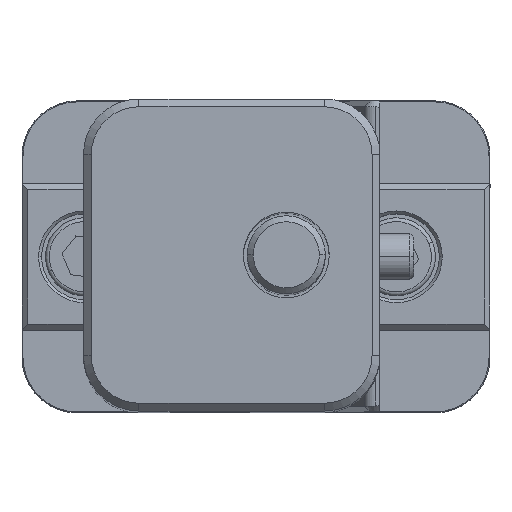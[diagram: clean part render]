
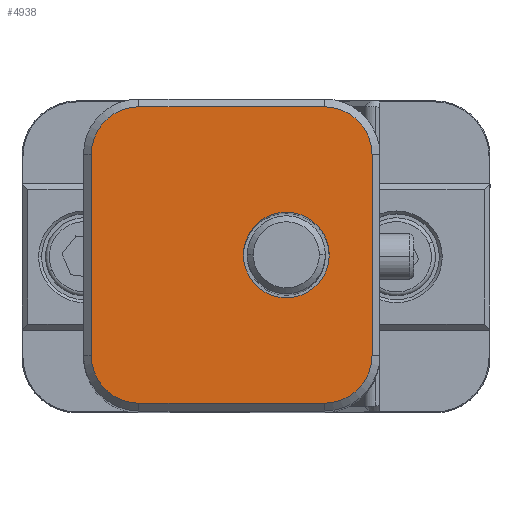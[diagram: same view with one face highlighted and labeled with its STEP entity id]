
A CAD part, top view. The second image highlights one B-rep face of the part: STEP entity #4938.
In plain terms, the highlighted planar face has unit normal (0, 0, 1).
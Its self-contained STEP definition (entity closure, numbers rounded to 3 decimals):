
#4938 = ADVANCED_FACE ( 'NONE', ( #11173, #11172 ), #11171, .T. ) ;
#4939 = EDGE_LOOP ( 'NONE', ( #4940, #4999, #5002, #5005, #5008, #5011, #4985, #4988 ) ) ;
#4940 = ORIENTED_EDGE ( 'NONE', *, *, #4941, .T. ) ;
#4941 = EDGE_CURVE ( 'NONE', #4997, #4998, #11284, .T. ) ;
#4950 = VERTEX_POINT ( 'NONE', #11243 ) ;
#4952 = EDGE_CURVE ( 'NONE', #4953, #4950, #11239, .T. ) ;
#4953 = VERTEX_POINT ( 'NONE', #11351 ) ;
#4983 = EDGE_CURVE ( 'NONE', #5010, #4984, #11363, .T. ) ;
#4984 = VERTEX_POINT ( 'NONE', #11357 ) ;
#4985 = ORIENTED_EDGE ( 'NONE', *, *, #4986, .T. ) ;
#4986 = EDGE_CURVE ( 'NONE', #4984, #4987, #11352, .T. ) ;
#4987 = VERTEX_POINT ( 'NONE', #11471 ) ;
#4988 = ORIENTED_EDGE ( 'NONE', *, *, #4989, .T. ) ;
#4989 = EDGE_CURVE ( 'NONE', #4987, #4997, #11466, .T. ) ;
#4990 = EDGE_LOOP ( 'NONE', ( #4991, #4992 ) ) ;
#4991 = ORIENTED_EDGE ( 'NONE', *, *, #4952, .T. ) ;
#4992 = ORIENTED_EDGE ( 'NONE', *, *, #4993, .T. ) ;
#4993 = EDGE_CURVE ( 'NONE', #4950, #4953, #11455, .T. ) ;
#4997 = VERTEX_POINT ( 'NONE', #11433 ) ;
#4998 = VERTEX_POINT ( 'NONE', #11432 ) ;
#4999 = ORIENTED_EDGE ( 'NONE', *, *, #5000, .T. ) ;
#5000 = EDGE_CURVE ( 'NONE', #4998, #5001, #11428, .T. ) ;
#5001 = VERTEX_POINT ( 'NONE', #11420 ) ;
#5002 = ORIENTED_EDGE ( 'NONE', *, *, #5003, .T. ) ;
#5003 = EDGE_CURVE ( 'NONE', #5001, #5004, #11418, .T. ) ;
#5004 = VERTEX_POINT ( 'NONE', #11535 ) ;
#5005 = ORIENTED_EDGE ( 'NONE', *, *, #5006, .T. ) ;
#5006 = EDGE_CURVE ( 'NONE', #5004, #5007, #11530, .T. ) ;
#5007 = VERTEX_POINT ( 'NONE', #11523 ) ;
#5008 = ORIENTED_EDGE ( 'NONE', *, *, #5009, .T. ) ;
#5009 = EDGE_CURVE ( 'NONE', #5007, #5010, #11520, .T. ) ;
#5010 = VERTEX_POINT ( 'NONE', #11512 ) ;
#5011 = ORIENTED_EDGE ( 'NONE', *, *, #4983, .T. ) ;
#11170 = CARTESIAN_POINT ( 'NONE',  ( -37.998, 20., 89.738 ) ) ;
#11171 = PLANE ( 'NONE',  #11291 ) ;
#11172 = FACE_BOUND ( 'NONE', #4990, .T. ) ;
#11173 = FACE_OUTER_BOUND ( 'NONE', #4939, .T. ) ;
#11233 = DIRECTION ( 'NONE',  ( 0., -1., 0. ) ) ;
#11234 = DIRECTION ( 'NONE',  ( 0., 0., -1. ) ) ;
#11235 = CARTESIAN_POINT ( 'NONE',  ( -11.989, 0., 89.738 ) ) ;
#11237 = AXIS2_PLACEMENT_3D ( 'NONE', #11235, #11234, #11233 ) ;
#11239 = CIRCLE ( 'NONE', #11237, 5.499 ) ;
#11243 = CARTESIAN_POINT ( 'NONE',  ( -17.488, 0., 89.738 ) ) ;
#11281 = DIRECTION ( 'NONE',  ( 0., 1., 0. ) ) ;
#11282 = VECTOR ( 'NONE', #11281, 1000. ) ;
#11283 = CARTESIAN_POINT ( 'NONE',  ( -1., 12.888, 89.738 ) ) ;
#11284 = LINE ( 'NONE', #11283, #11282 ) ;
#11286 = DIRECTION ( 'NONE',  ( 0., -1., 0. ) ) ;
#11289 = DIRECTION ( 'NONE',  ( 0., 0., 1. ) ) ;
#11291 = AXIS2_PLACEMENT_3D ( 'NONE', #11170, #11289, #11286 ) ;
#11351 = CARTESIAN_POINT ( 'NONE',  ( -6.49, 0., 89.738 ) ) ;
#11352 = LINE ( 'NONE', #11475, #11473 ) ;
#11357 = CARTESIAN_POINT ( 'NONE',  ( -30.886, -19., 89.738 ) ) ;
#11359 = DIRECTION ( 'NONE',  ( 0., -1., 0. ) ) ;
#11360 = DIRECTION ( 'NONE',  ( 0., 0., 1. ) ) ;
#11361 = CARTESIAN_POINT ( 'NONE',  ( -30.886, -12.888, 89.738 ) ) ;
#11362 = AXIS2_PLACEMENT_3D ( 'NONE', #11361, #11360, #11359 ) ;
#11363 = CIRCLE ( 'NONE', #11362, 6.112 ) ;
#11415 = DIRECTION ( 'NONE',  ( -1., 0., 0. ) ) ;
#11416 = VECTOR ( 'NONE', #11415, 1000. ) ;
#11417 = CARTESIAN_POINT ( 'NONE',  ( -37.998, 19., 89.738 ) ) ;
#11418 = LINE ( 'NONE', #11417, #11416 ) ;
#11420 = CARTESIAN_POINT ( 'NONE',  ( -7.112, 19., 89.738 ) ) ;
#11422 = DIRECTION ( 'NONE',  ( 0., -1., 0. ) ) ;
#11424 = DIRECTION ( 'NONE',  ( 0., 0., 1. ) ) ;
#11425 = CARTESIAN_POINT ( 'NONE',  ( -7.112, 12.888, 89.738 ) ) ;
#11427 = AXIS2_PLACEMENT_3D ( 'NONE', #11425, #11424, #11422 ) ;
#11428 = CIRCLE ( 'NONE', #11427, 6.112 ) ;
#11432 = CARTESIAN_POINT ( 'NONE',  ( -1., 12.888, 89.738 ) ) ;
#11433 = CARTESIAN_POINT ( 'NONE',  ( -1., -12.888, 89.738 ) ) ;
#11449 = DIRECTION ( 'NONE',  ( 0., -1., 0. ) ) ;
#11451 = DIRECTION ( 'NONE',  ( 0., 0., -1. ) ) ;
#11452 = CARTESIAN_POINT ( 'NONE',  ( -11.989, 0., 89.738 ) ) ;
#11454 = AXIS2_PLACEMENT_3D ( 'NONE', #11452, #11451, #11449 ) ;
#11455 = CIRCLE ( 'NONE', #11454, 5.499 ) ;
#11460 = DIRECTION ( 'NONE',  ( 0., -1., 0. ) ) ;
#11462 = DIRECTION ( 'NONE',  ( 0., 0., 1. ) ) ;
#11463 = CARTESIAN_POINT ( 'NONE',  ( -7.112, -12.888, 89.738 ) ) ;
#11465 = AXIS2_PLACEMENT_3D ( 'NONE', #11463, #11462, #11460 ) ;
#11466 = CIRCLE ( 'NONE', #11465, 6.112 ) ;
#11471 = CARTESIAN_POINT ( 'NONE',  ( -7.112, -19., 89.738 ) ) ;
#11472 = DIRECTION ( 'NONE',  ( 1., 0., 0. ) ) ;
#11473 = VECTOR ( 'NONE', #11472, 1000. ) ;
#11475 = CARTESIAN_POINT ( 'NONE',  ( -37.998, -19., 89.738 ) ) ;
#11512 = CARTESIAN_POINT ( 'NONE',  ( -36.998, -12.888, 89.738 ) ) ;
#11515 = DIRECTION ( 'NONE',  ( 0., -1., 0. ) ) ;
#11517 = VECTOR ( 'NONE', #11515, 1000. ) ;
#11519 = CARTESIAN_POINT ( 'NONE',  ( -36.998, 20., 89.738 ) ) ;
#11520 = LINE ( 'NONE', #11519, #11517 ) ;
#11523 = CARTESIAN_POINT ( 'NONE',  ( -36.998, 12.888, 89.738 ) ) ;
#11526 = DIRECTION ( 'NONE',  ( 0., -1., 0. ) ) ;
#11527 = DIRECTION ( 'NONE',  ( 0., 0., 1. ) ) ;
#11528 = CARTESIAN_POINT ( 'NONE',  ( -30.886, 12.888, 89.738 ) ) ;
#11529 = AXIS2_PLACEMENT_3D ( 'NONE', #11528, #11527, #11526 ) ;
#11530 = CIRCLE ( 'NONE', #11529, 6.112 ) ;
#11535 = CARTESIAN_POINT ( 'NONE',  ( -30.886, 19., 89.738 ) ) ;
